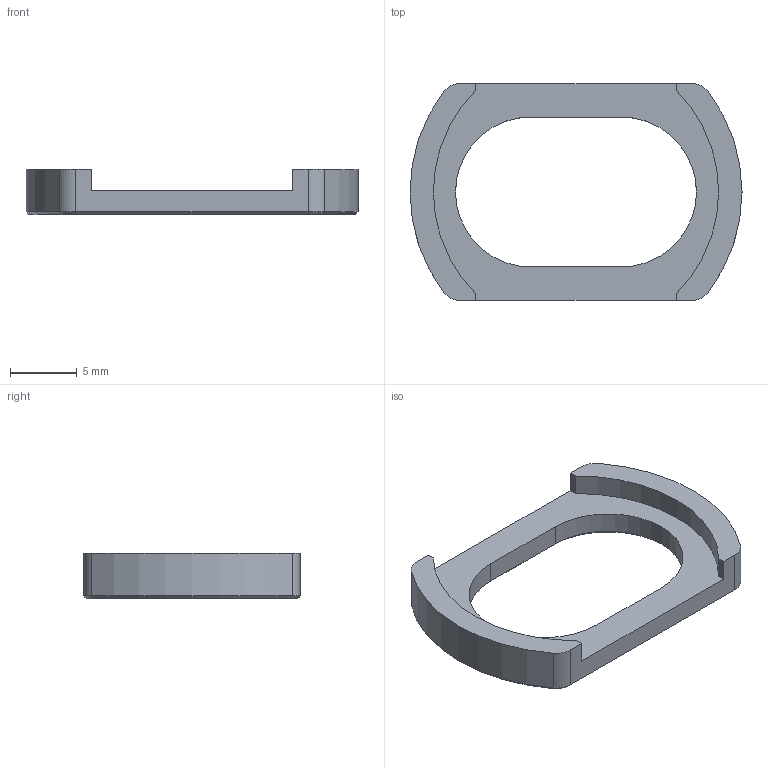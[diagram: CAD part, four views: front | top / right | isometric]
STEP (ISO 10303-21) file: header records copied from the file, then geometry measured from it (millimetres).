
FILE_DESCRIPTION(('CATIA V5 STEP Exchange','CAx-IF Rec.Pracs.--- Model Styling and Organization---1.4--- 2014-01-23','CAx-IF Rec.Pracs.---3D Tessellated Data Validation Properties---0.5---2014-09-14'),'2;1');
FILE_NAME('C:\Users\IS33\Desktop\220112移動データ\手配用データ\DT341M507-00-.stp','2022-01-12T09:20:01+00:00',('none'),('none'),'CATIA Version 5-6 Release 2019 SP3','CATIA V5 STEP AP242 v1','none');
FILE_SCHEMA(('AP242_MANAGED_MODEL_BASED_3D_ENGINEERING_MIM_LF {1 0 10303 442 1 1 4}'));
Length unit declared in the file: millimetre
Products named in the file (1): spacer2_3-3
Bounding box: 24.8 x 16.2 x 3.38 mm (x, y, z)
Volume: 445.3 mm3; surface area: 718.7 mm2
Topology: 1 solids, 1 shells, 38 faces, 98 edges, 62 vertices
Faces by surface type: plane 16, cylinder 14, cone 8
Entity records: 1112 total; most frequent: ORIENTED_EDGE 196, CARTESIAN_POINT 192, DIRECTION 160, EDGE_CURVE 98, AXIS2_PLACEMENT_3D 70, VERTEX_POINT 62, VECTOR 60, LINE 60
